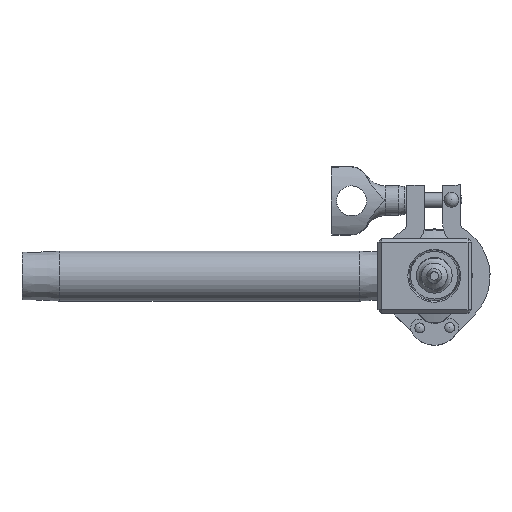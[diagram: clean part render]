
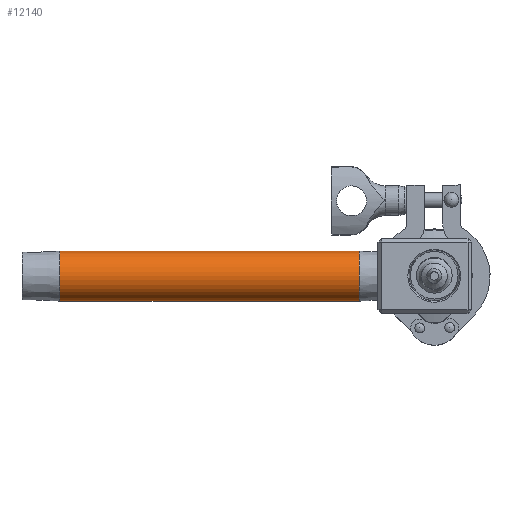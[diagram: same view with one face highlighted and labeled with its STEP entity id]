
A CAD part, top view. The second image highlights one B-rep face of the part: STEP entity #12140.
In plain terms, the highlighted cylindrical face has radius 13.335 mm (diameter 26.67 mm), a full revolution.
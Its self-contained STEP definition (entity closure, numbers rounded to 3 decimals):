
#2202=CYLINDRICAL_SURFACE('',#12644,13.335);
#4010=ORIENTED_EDGE('',*,*,#6039,.F.);
#4011=ORIENTED_EDGE('',*,*,#6040,.T.);
#6039=EDGE_CURVE('',#7462,#7462,#7914,.T.);
#6040=EDGE_CURVE('',#7463,#7463,#7915,.T.);
#7462=VERTEX_POINT('',#18141);
#7463=VERTEX_POINT('',#18143);
#7914=CIRCLE('',#12645,13.335);
#7915=CIRCLE('',#12646,13.335);
#8407=EDGE_LOOP('',(#4010));
#8408=EDGE_LOOP('',(#4011));
#9098=FACE_BOUND('',#8407,.T.);
#9099=FACE_BOUND('',#8408,.T.);
#12140=ADVANCED_FACE('',(#9098,#9099),#2202,.T.);
#12644=AXIS2_PLACEMENT_3D('',#18139,#13830,#13831);
#12645=AXIS2_PLACEMENT_3D('',#18140,#13832,#13833);
#12646=AXIS2_PLACEMENT_3D('',#18142,#13834,#13835);
#13830=DIRECTION('',(0.,0.,1.));
#13831=DIRECTION('',(1.,0.,0.));
#13832=DIRECTION('',(0.,0.,1.));
#13833=DIRECTION('',(1.,0.,0.));
#13834=DIRECTION('',(0.,0.,1.));
#13835=DIRECTION('',(1.,0.,0.));
#18139=CARTESIAN_POINT('',(0.,0.,-200.));
#18140=CARTESIAN_POINT('',(0.,0.,-20.155));
#18141=CARTESIAN_POINT('',(13.335,0.,-20.155));
#18142=CARTESIAN_POINT('',(0.,0.,-179.845));
#18143=CARTESIAN_POINT('',(13.335,0.,-179.845));
